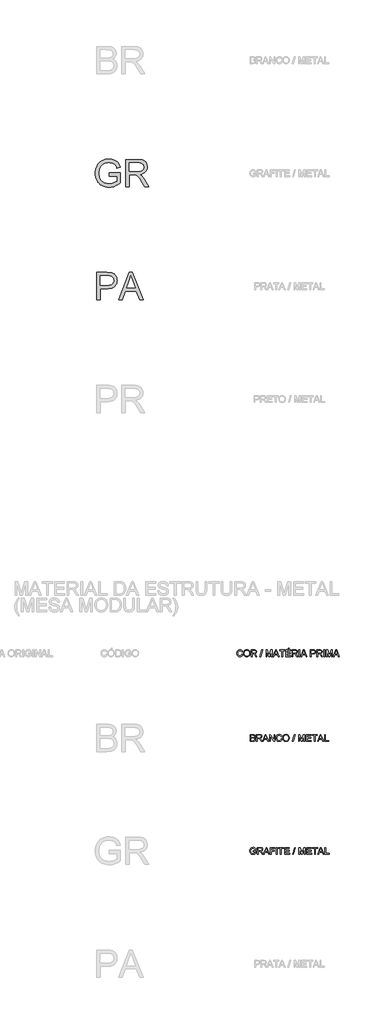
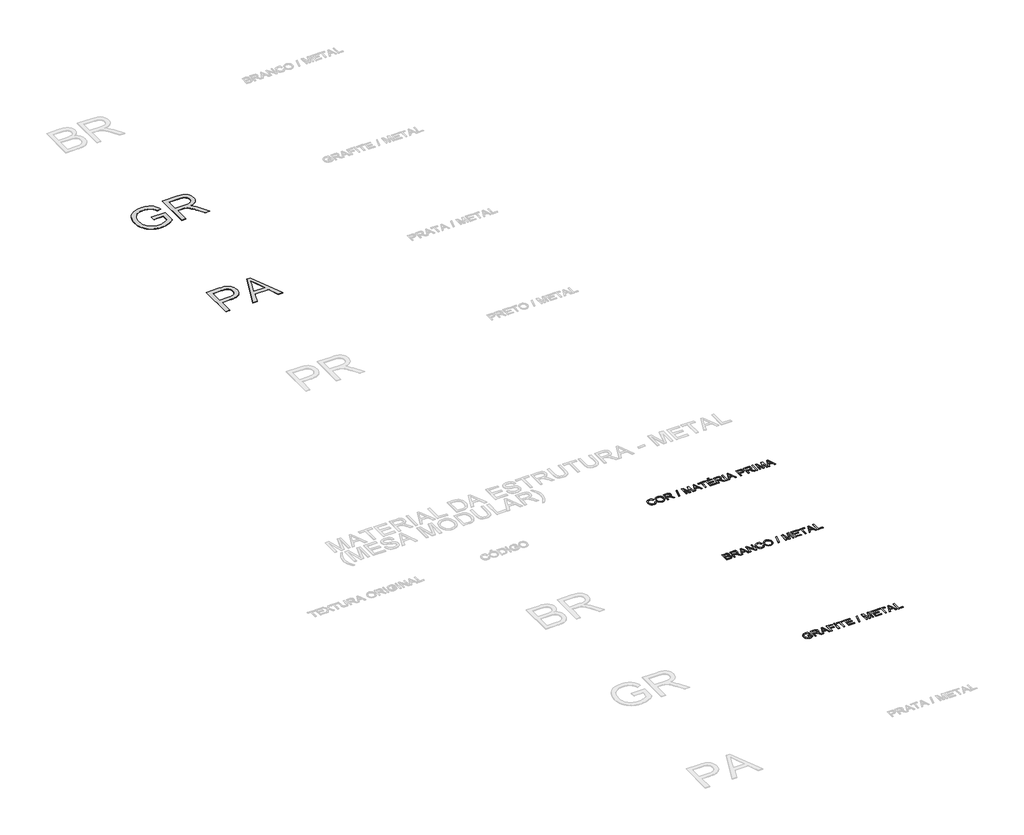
# One storey, part 52 of 67: 5 proxies.
"""IFC4 building model written with IfcOpenShell, lengths in millimetres."""

from ifc_helpers import new_model, si_unit, origin, origin_with_axes, place, context, project, spatial, polyline, outline, extrude, element, save

model = new_model("IFC4")

# Units and contexts
model_context = context("Model", 3, world=origin())
ifc_project = project(units=[si_unit("LENGTHUNIT", "METRE", prefix="MILLI")], contexts=[model_context])

# Site, building, storey
site = spatial("IfcSite", under=ifc_project)
building = spatial("IfcBuilding", under=site)
storey = spatial("IfcBuildingStorey", under=building, Name="Marelli - Linha COLAB - Planta Baixa", Elevation=0.0)

# Proxies
placement = place(None, origin())
element("IfcBuildingElementProxy", 1, Name="1200mm Arial", ObjectType="1200mm Arial", at=placement, inside=storey, context=model_context, shape_type="SweptSolid", body=[
    extrude(outline(polyline([(25440.4420398, -32509.6773662), (25440.4420398, -32358.992901), (25930.1665518, -32358.992901), (25930.1665518, -32809.5747687), (25871.1306887, -32853.886155), (25811.1567264, -32892.3482176), (25750.244665, -32924.9609565), (25688.3945046, -32951.7243716), (25625.6798215, -32972.5832808), (25562.1741921, -32987.4825016), (25497.8776163, -32996.4220341), (25432.7900943, -32999.4018782), (25346.2366579, -32994.6653975), (25263.7483176, -32980.4559555), (25185.3250732, -32956.773552), (25110.966925, -32923.6181872), (25043.0743028, -32881.4865017), (24984.0476366, -32830.8751362), (24933.8869266, -32771.7840908), (24892.5921726, -32704.2133653), (24860.3381187, -32630.3242666), (24837.2995088, -32552.2781013), (24823.4763428, -32470.0748695), (24818.8686208, -32383.7145711), (24823.4579487, -32297.3450757), (24837.2259324, -32213.9370303), (24860.1725718, -32133.490435), (24892.297867, -32056.0052898), (24933.0316009, -31984.8845031), (24981.8035565, -31923.5309833), (25038.6137336, -31871.9447306), (25103.4621323, -31830.1257448), (25174.9416039, -31797.8073115), (25251.6449999, -31774.7227163), (25333.5723202, -31760.8719592), (25420.7235649, -31756.2550401), (25484.348756, -31758.9313816), (25544.8469501, -31766.9604062), (25602.2181472, -31780.3421138), (25656.4623474, -31799.0765044), (25706.3011607, -31822.5841639), (25750.4561972, -31850.2856781), (25788.9274568, -31882.1810471), (25821.7149396, -31918.2702708), (25849.8671093, -31959.3718867), (25874.4324296, -32006.3044322), (25895.4109003, -32059.0679074), (25912.8025217, -32117.6623122), (25773.8902803, -32156.8049565), (25759.2209857, -32114.6548769), (25742.8778281, -32077.3792337), (25724.8608074, -32044.978027), (25705.1699236, -32017.4512567), (25682.4348163, -31993.6125034), (25655.285125, -31972.2753477), (25623.7208498, -31953.4397895), (25587.7419907, -31937.1058289), (25548.516573, -31923.9080624), (25507.212622, -31914.4810862), (25463.8301377, -31908.8249006), (25418.3691201, -31906.9395053), (25364.4836049, -31908.9720534), (25314.3688801, -31915.0696974), (25268.0249458, -31925.2324376), (25225.4518019, -31939.4602737), (25186.7322219, -31956.9898508), (25151.9489792, -31977.0578136), (25121.1020739, -31999.6641622), (25094.191506, -32024.8088966), (25049.8617256, -32080.2487133), (25016.6419814, -32140.9124543), (24996.0405897, -32196.6465765), (24981.3253099, -32254.6615672), (24972.496142, -32314.9574262), (24969.553086, -32377.5341536), (24973.0939502, -32452.7752186), (24983.7165428, -32521.6335311), (25001.4208639, -32584.1090909), (25026.2069133, -32640.2018981), (25057.7527944, -32689.7004206), (25095.7366104, -32732.3931261), (25140.1583613, -32768.2800148), (25191.0180471, -32797.3610865), (25245.9336319, -32819.8294793), (25302.5230799, -32835.8783314), (25360.7863908, -32845.5076426), (25420.7235649, -32848.717413), (25473.2295227, -32846.2985889), (25525.0916869, -32839.0421165), (25576.3100577, -32826.9479959), (25626.884635, -32810.0162271), (25715.2866784, -32770.0274542), (25750.4102119, -32749.0673776), (25779.4820866, -32727.4635074), (25779.4820866, -32509.6773662), (25440.4420398, -32509.6773662)])), origin_with_axes(), (0.0, 0.0, 1.0), 10.0),
    extrude(outline(polyline([(26175.0288078, -32980.5663201), (26175.0288078, -31775.0905983), (26694.478185, -31775.0905983), (26769.0386684, -31777.1231463), (26834.0894022, -31783.2207904), (26889.6303864, -31793.3835305), (26935.661621, -31807.6113666), (26974.8594476, -31826.9987478), (27009.9002077, -31852.6401229), (27040.7839012, -31884.5354918), (27067.5105281, -31922.6848547), (27089.0776101, -31965.0372694), (27104.4826686, -32009.5417938), (27113.7257038, -32056.1984278), (27116.8067155, -32105.0071715), (27111.7023528, -32166.9217113), (27096.3892647, -32223.7594796), (27070.8674513, -32275.5204763), (27035.1369125, -32322.2047015), (27013.328408, -32343.2705442), (26988.7377959, -32362.3222331), (26931.2102489, -32394.383149), (26862.5542716, -32418.3874491), (26782.7698638, -32434.3351336), (26832.4339332, -32466.7823256), (26868.4127923, -32498.7880592), (26930.1433911, -32571.9965762), (26990.5496147, -32653.8871084), (27191.5603369, -32980.5663201), (27016.4485072, -32980.5663201), (26859.5836244, -32730.7008689), (26796.8229561, -32635.3458558), (26746.2759699, -32565.3011239), (26704.1534815, -32517.0717943), (26666.6663062, -32487.1629881), (26631.1656936, -32469.615017), (26595.0028935, -32458.4681925), (26559.7597984, -32454.495067), (26507.5941315, -32453.1706918), (26325.713273, -32453.1706918), (26325.713273, -32980.5663201), (26175.0288078, -32980.5663201)]), holes=[polyline([(26325.713273, -32302.4862266), (26662.9874862, -32302.4862266), (26759.8508155, -32297.1519376), (26800.1430911, -32290.4840765), (26835.0091072, -32281.1490708), (26865.2306131, -32268.8802063), (26891.589358, -32253.4107684), (26914.085342, -32234.7407571), (26932.7185651, -32212.8701725), (26947.3326773, -32188.8750694), (26957.771329, -32163.8315026), (26964.0345199, -32137.7394721), (26966.1222502, -32110.5989779), (26962.1399276, -32072.0633389), (26950.1929599, -32037.0961552), (26930.2813469, -32005.6974269), (26902.4050887, -31977.867154), (26865.9203918, -31955.0768644), (26820.1834628, -31938.7980861), (26765.1943015, -31929.0308192), (26700.9529081, -31925.7750635), (26325.713273, -31925.7750635), (26325.713273, -32302.4862266)])]), origin_with_axes(), (0.0, 0.0, 1.0), 10.0),
])
element("IfcBuildingElementProxy", 2, Name="1200mm Arial", ObjectType="1200mm Arial", at=placement, inside=storey, context=model_context, shape_type="SweptSolid", body=[
    extrude(outline(polyline([(24875.3752953, -37980.5663201), (24875.3752953, -36775.0905983), (25322.1311902, -36775.0905983), (25426.1682184, -36777.9600778), (25502.246215, -36786.5685165), (25544.1755654, -36795.6092166), (25582.5548546, -36808.0160368), (25617.3840825, -36823.7889774), (25648.6632491, -36842.9280382), (25676.7234483, -36865.8286924), (25701.8957738, -36892.8864131), (25724.1802257, -36924.1012004), (25743.5768039, -36959.4730543), (25759.2853651, -36997.8339493), (25770.5057659, -37038.0158602), (25777.2380064, -37080.018787), (25779.4820866, -37123.8427297), (25773.4212307, -37197.842193), (25765.8451609, -37232.6208371), (25755.2386631, -37265.9187562), (25741.6017374, -37297.7359503), (25724.9343838, -37328.0724193), (25705.2366022, -37356.9281633), (25682.5083927, -37384.3031823), (25655.8254517, -37409.2731727), (25624.2634758, -37430.9138311), (25587.8224649, -37449.2251574), (25546.5024191, -37464.2071516), (25500.3033382, -37475.8598138), (25449.2252225, -37484.183144), (25393.2680718, -37489.1771421), (25332.4318861, -37490.8418081), (25026.0597605, -37490.8418081), (25026.0597605, -37980.5663201), (24875.3752953, -37980.5663201)]), holes=[polyline([(25026.0597605, -37340.1573429), (25341.2610539, -37340.1573429), (25413.733807, -37336.6992521), (25474.8757946, -37326.3249798), (25524.6870167, -37309.0345261), (25563.1674734, -37284.8278908), (25591.8806632, -37254.3488675), (25612.3900844, -37218.2412497), (25624.6957371, -37176.5050373), (25628.7976214, -37129.1402304), (25626.3787973, -37093.9707117), (25619.1223249, -37061.4499433), (25607.0282043, -37031.5779253), (25590.0964355, -37004.3546577), (25569.2283293, -36980.6630572), (25545.3251967, -36961.3860406), (25518.3870376, -36946.523608), (25488.413852, -36936.0757594), (25430.2884968, -36928.3502375), (25337.7293868, -36925.7750635), (25026.0597605, -36925.7750635), (25026.0597605, -37340.1573429)])]), origin_with_axes(), (0.0, 0.0, 1.0), 10.0),
    extrude(outline(polyline([(25846.2894569, -37980.5663201), (26327.4791066, -36775.0905983), (26455.7963465, -36775.0905983), (26936.9859962, -37980.5663201), (26777.7666687, -37980.5663201), (26639.7373441, -37603.855157), (26143.2438034, -37603.855157), (26005.5087844, -37980.5663201), (25846.2894569, -37980.5663201)]), holes=[polyline([(26198.5732555, -37453.1706918), (26584.7021976, -37453.1706918), (26476.1034327, -37156.8049565), (26391.6377266, -36925.7750635), (26316.5897996, -37130.906064), (26198.5732555, -37453.1706918)])]), origin_with_axes(), (0.0, 0.0, 1.0), 10.0),
])
element("IfcBuildingElementProxy", 3, Name="300mm Arial", ObjectType="300mm Arial", at=placement, inside=storey, context=model_context, shape_type="SweptSolid", body=[
    extrude(outline(polyline([(31304.1029253, -53673.4390831), (31341.7740416, -53683.1511677), (31334.3198327, -53706.5783531), (31324.3916173, -53727.0486868), (31311.9893956, -53744.5621691), (31297.1131674, -53759.1187997), (31280.0986251, -53770.5622291), (31261.2814611, -53778.7361071), (31240.6616752, -53783.640434), (31218.2392676, -53785.2752096), (31174.5440836, -53780.3271968), (31139.8436145, -53765.4831583), (31113.2457462, -53741.2581289), (31093.8583651, -53708.1671434), (31082.0217619, -53669.2636224), (31078.0762275, -53627.6009865), (31082.5367967, -53583.6574822), (31095.9185042, -53545.7104543), (31117.5223744, -53514.9647166), (31146.6494314, -53492.6250824), (31181.1935507, -53479.0226457), (31219.048608, -53474.4885001), (31260.352559, -53480.3562179), (31278.3212952, -53487.6908652), (31294.5012052, -53497.9593714), (31308.6255746, -53510.8904235), (31320.4276888, -53526.2127086), (31337.0651521, -53564.0309777), (31299.3940358, -53573.0072984), (31286.3342249, -53545.5357104), (31268.4919482, -53526.6909552), (31245.6464763, -53515.7924511), (31217.57708, -53512.1596164), (31185.2218586, -53516.1879242), (31158.6423844, -53528.2728478), (31138.473254, -53547.1451941), (31125.3490638, -53571.5357704), (31118.1477738, -53599.1085259), (31115.7473438, -53627.5274101), (31118.5892322, -53662.3290468), (31127.1148974, -53692.421794), (31141.6462362, -53716.6560205), (31162.5051454, -53733.8820949), (31187.511924, -53744.1735937), (31214.4868713, -53747.6040933), (31245.9315848, -53742.931992), (31272.1339799, -53728.9156879), (31291.9168342, -53705.7023341), (31304.1029253, -53673.4390831)])), origin_with_axes(), (0.0, 0.0, 1.0), 10.0),
    extrude(outline(polyline([(31379.4451579, -53633.8549804), (31381.9559525, -53598.5061192), (31389.4883364, -53567.213157), (31402.0423095, -53539.9760937), (31419.6178718, -53516.7949295), (31441.1619611, -53498.2858666), (31465.6215153, -53485.0651074), (31492.9965342, -53477.1326519), (31523.287018, -53474.4885001), (31562.8159384, -53479.454907), (31598.2613686, -53494.3541278), (31627.6919283, -53518.1376988), (31649.1762368, -53549.7571563), (31662.309624, -53587.68579), (31666.6874197, -53630.3968896), (31662.0796978, -53673.6782064), (31648.2565318, -53712.140269), (31625.981277, -53743.8149088), (31596.0172885, -53766.733957), (31560.8753609, -53780.6398965), (31523.0662888, -53785.2752096), (31482.9303632, -53780.1524528), (31447.2825978, -53764.7841825), (31417.9256146, -53740.5591531), (31396.6620353, -53708.8661192), (31383.7493773, -53672.3998164), (31379.4451579, -53633.8549804)]), holes=[polyline([(31417.1162742, -53634.2228624), (31418.9993702, -53659.1974513), (31424.6486581, -53681.3669401), (31434.0641379, -53700.7313286), (31447.2458096, -53717.2906169), (31463.2693698, -53730.5527628), (31481.2105148, -53740.0257242), (31501.0692448, -53745.709501), (31522.8455596, -53747.6040933), (31544.994355, -53745.6911069), (31565.0876097, -53739.9521478), (31583.1253238, -53730.3872159), (31599.1074972, -53716.9963113), (31612.1925999, -53700.0875351), (31621.5391019, -53679.9689885), (31627.1470031, -53656.6406715), (31629.0163034, -53630.102584), (31625.8157301, -53596.7540812), (31616.21401, -53567.9305269), (31600.4594636, -53544.358488), (31578.8004111, -53526.7645316), (31552.6715924, -53515.8108452), (31523.5077472, -53512.1596164), (31502.4878897, -53513.9185522), (31482.9855455, -53519.1953595), (31465.0007144, -53527.9900385), (31448.5333966, -53540.302589), (31434.7884056, -53556.7262208), (31424.9705548, -53577.8541437), (31419.0798444, -53603.6863575), (31417.1162742, -53634.2228624)])]), origin_with_axes(), (0.0, 0.0, 1.0), 10.0),
    extrude(outline(polyline([(31718.4852047, -53780.5663201), (31718.4852047, -53479.1973896), (31848.347549, -53479.1973896), (31883.2503533, -53481.2299376), (31908.643408, -53487.3275817), (31927.2030546, -53498.5847708), (31941.6056347, -53516.0959537), (31950.8486699, -53537.8101885), (31953.9296816, -53561.6765329), (31948.8253189, -53591.3646099), (31933.5122308, -53615.9759154), (31921.9124517, -53626.0052983), (31907.5305649, -53634.0205273), (31870.4204687, -53644.0085235), (31891.8312008, -53660.1217548), (31922.3654064, -53698.8965171), (31972.6180869, -53780.5663201), (31928.8401295, -53780.5663201), (31889.6239088, -53718.0999573), (31861.2969952, -53676.750021), (31841.3945793, -53657.2154871), (31823.4787261, -53650.0417882), (31801.6265356, -53648.717413), (31756.156321, -53648.717413), (31756.156321, -53780.5663201), (31718.4852047, -53780.5663201)]), holes=[polyline([(31756.156321, -53611.0462967), (31840.4748743, -53611.0462967), (31864.6907066, -53609.7127245), (31883.4802795, -53605.7120078), (31897.6253422, -53598.7774322), (31907.907644, -53588.6422832), (31914.170835, -53576.3826157), (31916.2585653, -53563.0744845), (31912.2762427, -53544.6987789), (31900.3292749, -53529.8915286), (31879.7738684, -53520.1242616), (31849.9662297, -53516.8685059), (31756.156321, -53516.8685059), (31756.156321, -53611.0462967)])]), origin_with_axes(), (0.0, 0.0, 1.0), 10.0),
    extrude(outline(polyline([(32104.6141468, -53780.5663201), (32189.3741585, -53479.1973896), (32223.3664548, -53479.1973896), (32138.6064432, -53780.5663201), (32104.6141468, -53780.5663201)])), origin_with_axes(), (0.0, 0.0, 1.0), 10.0),
    extrude(outline(polyline([(32373.0208505, -53780.5663201), (32373.0208505, -53479.1973896), (32437.841658, -53479.1973896), (32499.4986804, -53691.6124536), (32511.9330919, -53735.9790223), (32525.3975729, -53687.9336337), (32586.0245257, -53479.1973896), (32650.8453332, -53479.1973896), (32650.8453332, -53780.5663201), (32613.1742169, -53780.5663201), (32613.1742169, -53516.8685059), (32537.4641023, -53780.5663201), (32486.4020814, -53780.5663201), (32410.6919668, -53516.8685059), (32410.6919668, -53780.5663201), (32373.0208505, -53780.5663201)])), origin_with_axes(), (0.0, 0.0, 1.0), 10.0),
    extrude(outline(polyline([(32681.6738444, -53780.5663201), (32801.9712569, -53479.1973896), (32834.0505668, -53479.1973896), (32954.3479793, -53780.5663201), (32914.5431474, -53780.5663201), (32880.0358162, -53686.3885293), (32755.9124311, -53686.3885293), (32721.4786763, -53780.5663201), (32681.6738444, -53780.5663201)]), holes=[polyline([(32769.7447941, -53648.717413), (32866.2770296, -53648.717413), (32839.1273384, -53574.6259792), (32818.0109119, -53516.8685059), (32799.2489301, -53568.1512561), (32769.7447941, -53648.717413)])]), origin_with_axes(), (0.0, 0.0, 1.0), 10.0),
    extrude(outline(polyline([(33069.9365021, -53780.5663201), (33069.9365021, -53516.8685059), (32971.0498218, -53516.8685059), (32971.0498218, -53479.1973896), (33206.4942988, -53479.1973896), (33206.4942988, -53516.8685059), (33107.6076185, -53516.8685059), (33107.6076185, -53780.5663201), (33069.9365021, -53780.5663201)])), origin_with_axes(), (0.0, 0.0, 1.0), 10.0),
    extrude(outline(polyline([(33248.8743046, -53780.5663201), (33248.8743046, -53479.1973896), (33465.4832234, -53479.1973896), (33465.4832234, -53516.8685059), (33286.5454209, -53516.8685059), (33286.5454209, -53606.3374072), (33456.0654443, -53606.3374072), (33456.0654443, -53644.0085235), (33286.5454209, -53644.0085235), (33286.5454209, -53742.8952038), (33470.1921129, -53742.8952038), (33470.1921129, -53780.5663201), (33248.8743046, -53780.5663201)])), origin_with_axes(), (0.0, 0.0, 1.0), 10.0),
    extrude(outline(polyline([(33333.6343163, -53460.3618315), (33361.8876535, -53403.855157), (33408.9765489, -53403.855157), (33361.8876535, -53460.3618315), (33333.6343163, -53460.3618315)])), origin_with_axes(), (0.0, 0.0, 1.0), 10.0),
    extrude(outline(polyline([(33526.6987874, -53780.5663201), (33526.6987874, -53479.1973896), (33656.5611317, -53479.1973896), (33691.463936, -53481.2299376), (33716.8569907, -53487.3275817), (33735.4166373, -53498.5847708), (33749.8192174, -53516.0959537), (33759.0622526, -53537.8101885), (33762.1432643, -53561.6765329), (33757.0389016, -53591.3646099), (33741.7258135, -53615.9759154), (33730.1260344, -53626.0052983), (33715.7441476, -53634.0205273), (33678.6340514, -53644.0085235), (33700.0447835, -53660.1217548), (33730.5789891, -53698.8965171), (33780.8316696, -53780.5663201), (33737.0537122, -53780.5663201), (33697.8374915, -53718.0999573), (33669.5105779, -53676.750021), (33649.6081619, -53657.2154871), (33631.6923088, -53650.0417882), (33609.8401183, -53648.717413), (33564.3699037, -53648.717413), (33564.3699037, -53780.5663201), (33526.6987874, -53780.5663201)]), holes=[polyline([(33564.3699037, -53611.0462967), (33648.688457, -53611.0462967), (33672.9042893, -53609.7127245), (33691.6938622, -53605.7120078), (33705.8389249, -53598.7774322), (33716.1212267, -53588.6422832), (33722.3844176, -53576.3826157), (33724.472148, -53563.0744845), (33720.4898254, -53544.6987789), (33708.5428576, -53529.8915286), (33687.9874511, -53520.1242616), (33658.1798124, -53516.8685059), (33564.3699037, -53516.8685059), (33564.3699037, -53611.0462967)])]), origin_with_axes(), (0.0, 0.0, 1.0), 10.0),
    extrude(outline(polyline([(33832.7766073, -53780.5663201), (33832.7766073, -53479.1973896), (33870.4477237, -53479.1973896), (33870.4477237, -53780.5663201), (33832.7766073, -53780.5663201)])), origin_with_axes(), (0.0, 0.0, 1.0), 10.0),
    extrude(outline(polyline([(33910.6940139, -53780.5663201), (34030.9914263, -53479.1973896), (34063.0707363, -53479.1973896), (34183.3681488, -53780.5663201), (34143.5633169, -53780.5663201), (34109.0559857, -53686.3885293), (33984.9326006, -53686.3885293), (33950.4988458, -53780.5663201), (33910.6940139, -53780.5663201)]), holes=[polyline([(33998.7649636, -53648.717413), (34095.2971991, -53648.717413), (34068.1475079, -53574.6259792), (34047.0310813, -53516.8685059), (34028.2690996, -53568.1512561), (33998.7649636, -53648.717413)])]), origin_with_axes(), (0.0, 0.0, 1.0), 10.0),
    extrude(outline(polyline([(34341.3366775, -53780.5663201), (34341.3366775, -53479.1973896), (34453.0256512, -53479.1973896), (34498.0544074, -53482.0668692), (34518.1315673, -53487.4287493), (34534.6586659, -53496.1567496), (34547.9667971, -53508.6463433), (34558.3870546, -53525.2930036), (34565.1192951, -53544.9287051), (34567.3633753, -53566.3854225), (34565.8481613, -53584.8852883), (34561.3025194, -53601.9044291), (34553.7264496, -53617.4428449), (34543.1199518, -53631.5005356), (34528.5587226, -53643.1531978), (34509.1184584, -53651.476528), (34484.7991593, -53656.470526), (34455.6008252, -53658.1351921), (34379.0077938, -53658.1351921), (34379.0077938, -53780.5663201), (34341.3366775, -53780.5663201)]), holes=[polyline([(34379.0077938, -53620.4640758), (34457.8081172, -53620.4640758), (34491.2118023, -53617.005985), (34513.284722, -53606.6317127), (34525.5903748, -53589.9850525), (34529.692259, -53567.7097977), (34527.2734349, -53550.7872259), (34520.0169625, -53536.5134045), (34508.8241528, -53525.7712502), (34494.5963167, -53519.4436799), (34456.9252004, -53516.8685059), (34379.0077938, -53516.8685059), (34379.0077938, -53620.4640758)])]), origin_with_axes(), (0.0, 0.0, 1.0), 10.0),
    extrude(outline(polyline([(34619.1611602, -53780.5663201), (34619.1611602, -53479.1973896), (34749.0235045, -53479.1973896), (34783.9263088, -53481.2299376), (34809.3193635, -53487.3275817), (34827.8790102, -53498.5847708), (34842.2815903, -53516.0959537), (34851.5246254, -53537.8101885), (34854.6056372, -53561.6765329), (34849.5012745, -53591.3646099), (34834.1881864, -53615.9759154), (34822.5884073, -53626.0052983), (34808.2065205, -53634.0205273), (34771.0964242, -53644.0085235), (34792.5071564, -53660.1217548), (34823.041362, -53698.8965171), (34873.2940425, -53780.5663201), (34829.5160851, -53780.5663201), (34790.2998644, -53718.0999573), (34761.9729508, -53676.750021), (34742.0705348, -53657.2154871), (34724.1546817, -53650.0417882), (34702.3024911, -53648.717413), (34656.8322765, -53648.717413), (34656.8322765, -53780.5663201), (34619.1611602, -53780.5663201)]), holes=[polyline([(34656.8322765, -53611.0462967), (34741.1508298, -53611.0462967), (34765.3666622, -53609.7127245), (34784.1562351, -53605.7120078), (34798.3012978, -53598.7774322), (34808.5835996, -53588.6422832), (34814.8467905, -53576.3826157), (34816.9345208, -53563.0744845), (34812.9521982, -53544.6987789), (34801.0052305, -53529.8915286), (34780.449824, -53520.1242616), (34750.6421853, -53516.8685059), (34656.8322765, -53516.8685059), (34656.8322765, -53611.0462967)])]), origin_with_axes(), (0.0, 0.0, 1.0), 10.0),
    extrude(outline(polyline([(34925.2389802, -53780.5663201), (34925.2389802, -53479.1973896), (34962.9100965, -53479.1973896), (34962.9100965, -53780.5663201), (34925.2389802, -53780.5663201)])), origin_with_axes(), (0.0, 0.0, 1.0), 10.0),
    extrude(outline(polyline([(35038.2523291, -53780.5663201), (35038.2523291, -53479.1973896), (35103.0731367, -53479.1973896), (35164.7301591, -53691.6124536), (35177.1645705, -53735.9790223), (35190.6290515, -53687.9336337), (35251.2560044, -53479.1973896), (35316.0768119, -53479.1973896), (35316.0768119, -53780.5663201), (35278.4056956, -53780.5663201), (35278.4056956, -53516.8685059), (35202.695581, -53780.5663201), (35151.6335601, -53780.5663201), (35075.9234454, -53516.8685059), (35075.9234454, -53780.5663201), (35038.2523291, -53780.5663201)])), origin_with_axes(), (0.0, 0.0, 1.0), 10.0),
    extrude(outline(polyline([(35346.9053231, -53780.5663201), (35467.2027355, -53479.1973896), (35499.2820455, -53479.1973896), (35619.5794579, -53780.5663201), (35579.774626, -53780.5663201), (35545.2672949, -53686.3885293), (35421.1439097, -53686.3885293), (35386.710155, -53780.5663201), (35346.9053231, -53780.5663201)]), holes=[polyline([(35434.9762727, -53648.717413), (35531.5085083, -53648.717413), (35504.358817, -53574.6259792), (35483.2423905, -53516.8685059), (35464.4804088, -53568.1512561), (35434.9762727, -53648.717413)])]), origin_with_axes(), (0.0, 0.0, 1.0), 10.0),
])
element("IfcBuildingElementProxy", 4, Name="300mm Arial", ObjectType="300mm Arial", at=placement, inside=storey, context=model_context, shape_type="SweptSolid", body=[
    extrude(outline(polyline([(31673.7507541, -57530.5663201), (31673.7507541, -57229.1973896), (31788.7506657, -57229.1973896), (31820.3793203, -57231.4138786), (31845.0733992, -57238.0633457), (31864.0009279, -57249.3113377), (31878.3299316, -57265.3234015), (31887.3522375, -57284.1589597), (31890.3596728, -57303.8774346), (31887.8304841, -57322.0232141), (31880.2429179, -57339.0837416), (31867.5417921, -57354.0105535), (31849.6719241, -57365.7551862), (31871.0182769, -57376.9020107), (31886.7912175, -57393.8613707), (31896.5308933, -57415.5112261), (31899.7774519, -57440.7295368), (31897.5609629, -57461.7447958), (31890.9114958, -57481.2333445), (31880.987879, -57497.8064284), (31868.9489407, -57510.0752929), (31854.2060697, -57518.9596431), (31836.1706549, -57525.3791839), (31787.867749, -57530.5663201), (31673.7507541, -57530.5663201)]), holes=[polyline([(31711.4218704, -57351.6285176), (31780.2158035, -57351.6285176), (31820.3885173, -57348.3911561), (31834.4508066, -57342.8085468), (31844.5583644, -57334.4484284), (31850.6560085, -57323.4395597), (31852.6885565, -57309.9106994), (31850.7939642, -57296.7773121), (31845.1101874, -57285.3361821), (31835.8947434, -57276.4058467), (31823.4051497, -57270.8048433), (31774.9918791, -57266.8685059), (31711.4218704, -57266.8685059), (31711.4218704, -57351.6285176)]), polyline([(31711.4218704, -57492.8952038), (31788.6770893, -57492.8952038), (31816.636121, -57491.4236758), (31840.2909333, -57483.2199073), (31855.9627063, -57466.4812765), (31860.5704283, -57454.6538704), (31862.1063356, -57441.0974188), (31860.3037138, -57425.3520694), (31854.8958485, -57411.814012), (31845.4504783, -57401.2282076), (31831.5353418, -57394.3396173), (31811.8260639, -57390.5596298), (31784.9982694, -57389.2996339), (31711.4218704, -57389.2996339), (31711.4218704, -57492.8952038)])]), origin_with_axes(), (0.0, 0.0, 1.0), 10.0),
    extrude(outline(polyline([(31951.5752368, -57530.5663201), (31951.5752368, -57229.1973896), (32081.4375811, -57229.1973896), (32116.3403854, -57231.2299376), (32141.7334401, -57237.3275817), (32160.2930868, -57248.5847708), (32174.6956669, -57266.0959537), (32183.938702, -57287.8101885), (32187.0197137, -57311.6765329), (32181.915351, -57341.3646099), (32166.602263, -57365.9759154), (32155.0024838, -57376.0052983), (32140.6205971, -57384.0205273), (32103.5105008, -57394.0085235), (32124.9212329, -57410.1217548), (32155.4554385, -57448.8965171), (32205.7081191, -57530.5663201), (32161.9301617, -57530.5663201), (32122.713941, -57468.0999573), (32094.3870273, -57426.750021), (32074.4846114, -57407.2154871), (32056.5687582, -57400.0417882), (32034.7165677, -57398.717413), (31989.2463531, -57398.717413), (31989.2463531, -57530.5663201), (31951.5752368, -57530.5663201)]), holes=[polyline([(31989.2463531, -57361.0462967), (32073.5649064, -57361.0462967), (32097.7807387, -57359.7127245), (32116.5703116, -57355.7120078), (32130.7153744, -57348.7774322), (32140.9976761, -57338.6422832), (32147.2608671, -57326.3826157), (32149.3485974, -57313.0744845), (32145.3662748, -57294.6987789), (32133.419307, -57279.8915286), (32112.8639005, -57270.1242616), (32083.0562619, -57266.8685059), (31989.2463531, -57266.8685059), (31989.2463531, -57361.0462967)])]), origin_with_axes(), (0.0, 0.0, 1.0), 10.0),
    extrude(outline(polyline([(32217.8482249, -57530.5663201), (32338.1456373, -57229.1973896), (32370.2249473, -57229.1973896), (32490.5223597, -57530.5663201), (32450.7175279, -57530.5663201), (32416.2101967, -57436.3885293), (32292.0868115, -57436.3885293), (32257.6530568, -57530.5663201), (32217.8482249, -57530.5663201)]), holes=[polyline([(32305.9191746, -57398.717413), (32402.4514101, -57398.717413), (32375.3017189, -57324.6259792), (32354.1852923, -57266.8685059), (32335.4233106, -57318.1512561), (32305.9191746, -57398.717413)])]), origin_with_axes(), (0.0, 0.0, 1.0), 10.0),
    extrude(outline(polyline([(32530.76865, -57530.5663201), (32530.76865, -57229.1973896), (32571.0885167, -57229.1973896), (32728.5420106, -57467.9528045), (32728.5420106, -57229.1973896), (32766.2131269, -57229.1973896), (32766.2131269, -57530.5663201), (32725.8932603, -57530.5663201), (32568.4397663, -57291.7373288), (32568.4397663, -57530.5663201), (32530.76865, -57530.5663201)])), origin_with_axes(), (0.0, 0.0, 1.0), 10.0),
    extrude(outline(polyline([(33044.0376097, -57423.4390831), (33081.708726, -57433.1511677), (33074.2545171, -57456.5783531), (33064.3263017, -57477.0486868), (33051.92408, -57494.5621691), (33037.0478518, -57509.1187997), (33020.0333095, -57520.5622291), (33001.2161455, -57528.7361071), (32980.5963596, -57533.640434), (32958.173952, -57535.2752096), (32914.478768, -57530.3271968), (32879.7782988, -57515.4831583), (32853.1804306, -57491.2581289), (32833.7930494, -57458.1671434), (32821.9564463, -57419.2636224), (32818.0109119, -57377.6009865), (32822.471481, -57333.6574822), (32835.8531886, -57295.7104543), (32857.4570588, -57264.9647166), (32886.5841158, -57242.6250824), (32921.1282351, -57229.0226457), (32958.9832924, -57224.4885001), (33000.2872434, -57230.3562179), (33018.2559796, -57237.6908652), (33034.4358896, -57247.9593714), (33048.560259, -57260.8904235), (33060.3623732, -57276.2127086), (33076.9998365, -57314.0309777), (33039.3287202, -57323.0072984), (33026.2689093, -57295.5357104), (33008.4266326, -57276.6909552), (32985.5811607, -57265.7924511), (32957.5117644, -57262.1596164), (32925.1565429, -57266.1879242), (32898.5770688, -57278.2728478), (32878.4079384, -57297.1451941), (32865.2837482, -57321.5357704), (32858.0824582, -57349.1085259), (32855.6820282, -57377.5274101), (32858.5239166, -57412.3290468), (32867.0495818, -57442.421794), (32881.5809206, -57466.6560205), (32902.4398297, -57483.8820949), (32927.4466084, -57494.1735937), (32954.4215557, -57497.6040933), (32985.8662692, -57492.931992), (33012.0686643, -57478.9156879), (33031.8515186, -57455.7023341), (33044.0376097, -57423.4390831)])), origin_with_axes(), (0.0, 0.0, 1.0), 10.0),
    extrude(outline(polyline([(33119.3798423, -57383.8549804), (33121.8906369, -57348.5061192), (33129.4230208, -57317.213157), (33141.9769939, -57289.9760937), (33159.5525562, -57266.7949295), (33181.0966455, -57248.2858666), (33205.5561997, -57235.0651074), (33232.9312186, -57227.1326519), (33263.2217024, -57224.4885001), (33302.7506228, -57229.454907), (33338.196053, -57244.3541278), (33367.6266126, -57268.1376988), (33389.1109212, -57299.7571563), (33402.2443084, -57337.68579), (33406.6221041, -57380.3968896), (33402.0143821, -57423.6782064), (33388.1912162, -57462.140269), (33365.9159614, -57493.8149088), (33335.9519729, -57516.733957), (33300.8100453, -57530.6398965), (33263.0009732, -57535.2752096), (33222.8650475, -57530.1524528), (33187.2172822, -57514.7841825), (33157.860299, -57490.5591531), (33136.5967197, -57458.8661192), (33123.6840616, -57422.3998164), (33119.3798423, -57383.8549804)]), holes=[polyline([(33157.0509586, -57384.2228624), (33158.9340546, -57409.1974513), (33164.5833425, -57431.3669401), (33173.9988223, -57450.7313286), (33187.180494, -57467.2906169), (33203.2040542, -57480.5527628), (33221.1451992, -57490.0257242), (33241.0039292, -57495.709501), (33262.780244, -57497.6040933), (33284.9290394, -57495.6911069), (33305.0222941, -57489.9521478), (33323.0600082, -57480.3872159), (33339.0421816, -57466.9963113), (33352.1272843, -57450.0875351), (33361.4737863, -57429.9689885), (33367.0816874, -57406.6406715), (33368.9509878, -57380.102584), (33365.7504145, -57346.7540812), (33356.1486944, -57317.9305269), (33340.394148, -57294.358488), (33318.7350955, -57276.7645316), (33292.6062768, -57265.8108452), (33263.4424316, -57262.1596164), (33242.4225741, -57263.9185522), (33222.9202298, -57269.1953595), (33204.9353988, -57277.9900385), (33188.468081, -57290.302589), (33174.72309, -57306.7262208), (33164.9052392, -57327.8541437), (33159.0145288, -57353.6863575), (33157.0509586, -57384.2228624)])]), origin_with_axes(), (0.0, 0.0, 1.0), 10.0),
    extrude(outline(polyline([(33543.1799007, -57530.5663201), (33627.9399124, -57229.1973896), (33661.9322088, -57229.1973896), (33577.1721971, -57530.5663201), (33543.1799007, -57530.5663201)])), origin_with_axes(), (0.0, 0.0, 1.0), 10.0),
    extrude(outline(polyline([(33811.5866044, -57530.5663201), (33811.5866044, -57229.1973896), (33876.407412, -57229.1973896), (33938.0644344, -57441.6124536), (33950.4988458, -57485.9790223), (33963.9633268, -57437.9336337), (34024.5902796, -57229.1973896), (34089.4110872, -57229.1973896), (34089.4110872, -57530.5663201), (34051.7399709, -57530.5663201), (34051.7399709, -57266.8685059), (33976.0298563, -57530.5663201), (33924.9678353, -57530.5663201), (33849.2577207, -57266.8685059), (33849.2577207, -57530.5663201), (33811.5866044, -57530.5663201)])), origin_with_axes(), (0.0, 0.0, 1.0), 10.0),
    extrude(outline(polyline([(34155.3355407, -57530.5663201), (34155.3355407, -57229.1973896), (34371.9444595, -57229.1973896), (34371.9444595, -57266.8685059), (34193.006657, -57266.8685059), (34193.006657, -57356.3374072), (34362.5266804, -57356.3374072), (34362.5266804, -57394.0085235), (34193.006657, -57394.0085235), (34193.006657, -57492.8952038), (34376.653349, -57492.8952038), (34376.653349, -57530.5663201), (34155.3355407, -57530.5663201)])), origin_with_axes(), (0.0, 0.0, 1.0), 10.0),
    extrude(outline(polyline([(34508.5022561, -57530.5663201), (34508.5022561, -57266.8685059), (34409.6155758, -57266.8685059), (34409.6155758, -57229.1973896), (34645.0600527, -57229.1973896), (34645.0600527, -57266.8685059), (34546.1733724, -57266.8685059), (34546.1733724, -57530.5663201), (34508.5022561, -57530.5663201)])), origin_with_axes(), (0.0, 0.0, 1.0), 10.0),
    extrude(outline(polyline([(34652.3441162, -57530.5663201), (34772.6415286, -57229.1973896), (34804.7208386, -57229.1973896), (34925.018251, -57530.5663201), (34885.2134191, -57530.5663201), (34850.706088, -57436.3885293), (34726.5827028, -57436.3885293), (34692.1489481, -57530.5663201), (34652.3441162, -57530.5663201)]), holes=[polyline([(34740.4150658, -57398.717413), (34836.9473014, -57398.717413), (34809.7976101, -57324.6259792), (34788.6811836, -57266.8685059), (34769.9192019, -57318.1512561), (34740.4150658, -57398.717413)])]), origin_with_axes(), (0.0, 0.0, 1.0), 10.0),
    extrude(outline(polyline([(34965.2645413, -57530.5663201), (34965.2645413, -57229.1973896), (35002.9356576, -57229.1973896), (35002.9356576, -57492.8952038), (35153.6201228, -57492.8952038), (35153.6201228, -57530.5663201), (34965.2645413, -57530.5663201)])), origin_with_axes(), (0.0, 0.0, 1.0), 10.0),
])
element("IfcBuildingElementProxy", 5, Name="300mm Arial", ObjectType="300mm Arial", at=placement, inside=storey, context=model_context, shape_type="SweptSolid", body=[
    extrude(outline(polyline([(31803.2452164, -62412.8440816), (31803.2452164, -62375.1729653), (31925.6763444, -62375.1729653), (31925.6763444, -62487.8184322), (31895.923888, -62508.5117945), (31865.2333325, -62523.355833), (31833.6782544, -62532.2953654), (31801.33223, -62535.2752096), (31759.0717858, -62530.5387289), (31720.8764376, -62516.3292869), (31689.1466156, -62493.1435241), (31666.2827496, -62461.4780814), (31652.4595836, -62423.4942654), (31647.8518616, -62381.3533828), (31652.4411895, -62338.9089976), (31666.2091732, -62299.4260625), (31688.5855955, -62266.3074859), (31719.0002395, -62242.9561762), (31756.0459564, -62229.1054191), (31798.3155976, -62224.4885001), (31829.3464439, -62227.1648416), (31857.2502932, -62235.1938661), (31880.7487557, -62247.9961596), (31898.5634413, -62264.9923078), (31911.7428138, -62287.0008481), (31921.3353368, -62314.8403181), (31886.6072765, -62324.6259792), (31878.8541634, -62304.7695485), (31869.4271873, -62289.7875542), (31856.9559877, -62278.493577), (31840.0702041, -62269.7011973), (31819.9378619, -62264.0450116), (31797.7269864, -62262.1596164), (31771.7269264, -62264.1921644), (31749.4976569, -62270.2898085), (31731.1219512, -62279.6891935), (31716.6825829, -62291.6269642), (31697.2952017, -62320.6528536), (31688.4660339, -62349.0901318), (31685.5229779, -62379.8082784), (31689.0638421, -62415.8331228), (31699.6864347, -62445.4752146), (31717.068859, -62468.5230216), (31740.8892182, -62484.7650117), (31768.7654764, -62494.3943229), (31798.3155976, -62497.6040933), (31824.4076281, -62495.1852692), (31849.8558651, -62487.9287968), (31871.956376, -62477.9316036), (31888.005228, -62467.2906169), (31888.005228, -62412.8440816), (31803.2452164, -62412.8440816)])), origin_with_axes(), (0.0, 0.0, 1.0), 10.0),
    extrude(outline(polyline([(31986.8919083, -62530.5663201), (31986.8919083, -62229.1973896), (32116.7542526, -62229.1973896), (32151.6570569, -62231.2299376), (32177.0501117, -62237.3275817), (32195.6097583, -62248.5847708), (32210.0123384, -62266.0959537), (32219.2553736, -62287.8101885), (32222.3363853, -62311.6765329), (32217.2320226, -62341.3646099), (32201.9189345, -62365.9759154), (32190.3191554, -62376.0052983), (32175.9372686, -62384.0205273), (32138.8271724, -62394.0085235), (32160.2379045, -62410.1217548), (32190.7721101, -62448.8965171), (32241.0247906, -62530.5663201), (32197.2468332, -62530.5663201), (32158.0306125, -62468.0999573), (32129.7036989, -62426.750021), (32109.8012829, -62407.2154871), (32091.8854298, -62400.0417882), (32070.0332393, -62398.717413), (32024.5630247, -62398.717413), (32024.5630247, -62530.5663201), (31986.8919083, -62530.5663201)]), holes=[polyline([(32024.5630247, -62361.0462967), (32108.8815779, -62361.0462967), (32133.0974103, -62359.7127245), (32151.8869832, -62355.7120078), (32166.0320459, -62348.7774322), (32176.3143477, -62338.6422832), (32182.5775386, -62326.3826157), (32184.665269, -62313.0744845), (32180.6829464, -62294.6987789), (32168.7359786, -62279.8915286), (32148.1805721, -62270.1242616), (32118.3729334, -62266.8685059), (32024.5630247, -62266.8685059), (32024.5630247, -62361.0462967)])]), origin_with_axes(), (0.0, 0.0, 1.0), 10.0),
    extrude(outline(polyline([(32253.1648965, -62530.5663201), (32373.4623089, -62229.1973896), (32405.5416189, -62229.1973896), (32525.8390313, -62530.5663201), (32486.0341994, -62530.5663201), (32451.5268683, -62436.3885293), (32327.4034831, -62436.3885293), (32292.9697283, -62530.5663201), (32253.1648965, -62530.5663201)]), holes=[polyline([(32341.2358461, -62398.717413), (32437.7680816, -62398.717413), (32410.6183904, -62324.6259792), (32389.5019639, -62266.8685059), (32370.7399821, -62318.1512561), (32341.2358461, -62398.717413)])]), origin_with_axes(), (0.0, 0.0, 1.0), 10.0),
    extrude(outline(polyline([(32566.0853216, -62530.5663201), (32566.0853216, -62229.1973896), (32768.5675717, -62229.1973896), (32768.5675717, -62266.8685059), (32603.7564379, -62266.8685059), (32603.7564379, -62356.3374072), (32745.023124, -62356.3374072), (32745.023124, -62394.0085235), (32603.7564379, -62394.0085235), (32603.7564379, -62530.5663201), (32566.0853216, -62530.5663201)])), origin_with_axes(), (0.0, 0.0, 1.0), 10.0),
    extrude(outline(polyline([(32825.0742462, -62530.5663201), (32825.0742462, -62229.1973896), (32862.7453625, -62229.1973896), (32862.7453625, -62530.5663201), (32825.0742462, -62530.5663201)])), origin_with_axes(), (0.0, 0.0, 1.0), 10.0),
    extrude(outline(polyline([(33013.4298277, -62530.5663201), (33013.4298277, -62266.8685059), (32914.5431474, -62266.8685059), (32914.5431474, -62229.1973896), (33149.9876243, -62229.1973896), (33149.9876243, -62266.8685059), (33051.100944, -62266.8685059), (33051.100944, -62530.5663201), (33013.4298277, -62530.5663201)])), origin_with_axes(), (0.0, 0.0, 1.0), 10.0),
    extrude(outline(polyline([(33192.3676301, -62530.5663201), (33192.3676301, -62229.1973896), (33408.9765489, -62229.1973896), (33408.9765489, -62266.8685059), (33230.0387465, -62266.8685059), (33230.0387465, -62356.3374072), (33399.5587698, -62356.3374072), (33399.5587698, -62394.0085235), (33230.0387465, -62394.0085235), (33230.0387465, -62492.8952038), (33413.6854384, -62492.8952038), (33413.6854384, -62530.5663201), (33192.3676301, -62530.5663201)])), origin_with_axes(), (0.0, 0.0, 1.0), 10.0),
    extrude(outline(polyline([(33554.9521246, -62530.5663201), (33639.7121363, -62229.1973896), (33673.7044326, -62229.1973896), (33588.9444209, -62530.5663201), (33554.9521246, -62530.5663201)])), origin_with_axes(), (0.0, 0.0, 1.0), 10.0),
    extrude(outline(polyline([(33823.3588283, -62530.5663201), (33823.3588283, -62229.1973896), (33888.1796358, -62229.1973896), (33949.8366582, -62441.6124536), (33962.2710697, -62485.9790223), (33975.7355507, -62437.9336337), (34036.3625035, -62229.1973896), (34101.183311, -62229.1973896), (34101.183311, -62530.5663201), (34063.5121947, -62530.5663201), (34063.5121947, -62266.8685059), (33987.8020801, -62530.5663201), (33936.7400592, -62530.5663201), (33861.0299446, -62266.8685059), (33861.0299446, -62530.5663201), (33823.3588283, -62530.5663201)])), origin_with_axes(), (0.0, 0.0, 1.0), 10.0),
    extrude(outline(polyline([(34167.1077646, -62530.5663201), (34167.1077646, -62229.1973896), (34383.7166833, -62229.1973896), (34383.7166833, -62266.8685059), (34204.7788809, -62266.8685059), (34204.7788809, -62356.3374072), (34374.2989042, -62356.3374072), (34374.2989042, -62394.0085235), (34204.7788809, -62394.0085235), (34204.7788809, -62492.8952038), (34388.4255729, -62492.8952038), (34388.4255729, -62530.5663201), (34167.1077646, -62530.5663201)])), origin_with_axes(), (0.0, 0.0, 1.0), 10.0),
    extrude(outline(polyline([(34520.2744799, -62530.5663201), (34520.2744799, -62266.8685059), (34421.3877996, -62266.8685059), (34421.3877996, -62229.1973896), (34656.8322765, -62229.1973896), (34656.8322765, -62266.8685059), (34557.9455962, -62266.8685059), (34557.9455962, -62530.5663201), (34520.2744799, -62530.5663201)])), origin_with_axes(), (0.0, 0.0, 1.0), 10.0),
    extrude(outline(polyline([(34664.11634, -62530.5663201), (34784.4137525, -62229.1973896), (34816.4930625, -62229.1973896), (34936.7904749, -62530.5663201), (34896.985643, -62530.5663201), (34862.4783118, -62436.3885293), (34738.3549267, -62436.3885293), (34703.9211719, -62530.5663201), (34664.11634, -62530.5663201)]), holes=[polyline([(34752.1872897, -62398.717413), (34848.7195252, -62398.717413), (34821.569834, -62324.6259792), (34800.4534075, -62266.8685059), (34781.6914257, -62318.1512561), (34752.1872897, -62398.717413)])]), origin_with_axes(), (0.0, 0.0, 1.0), 10.0),
    extrude(outline(polyline([(34977.0367651, -62530.5663201), (34977.0367651, -62229.1973896), (35014.7078815, -62229.1973896), (35014.7078815, -62492.8952038), (35165.3923467, -62492.8952038), (35165.3923467, -62530.5663201), (34977.0367651, -62530.5663201)])), origin_with_axes(), (0.0, 0.0, 1.0), 10.0),
])

save(model, "model.ifc")
